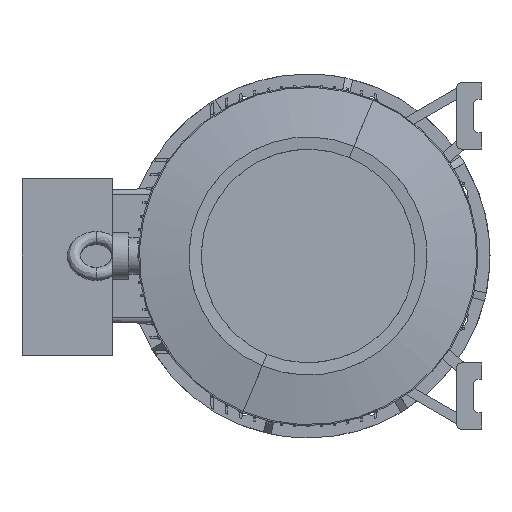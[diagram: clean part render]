
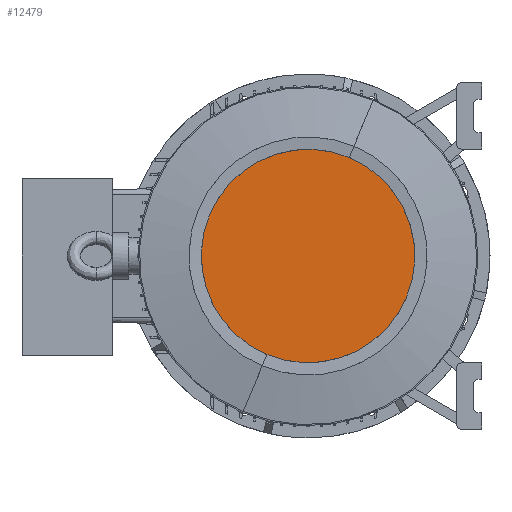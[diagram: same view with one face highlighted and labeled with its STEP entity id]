
A CAD part, left-side view. The second image highlights one B-rep face of the part: STEP entity #12479.
In plain terms, the highlighted planar face has unit normal (-1, 0, 0) as drawn and (1, 0, 0) by its records, which use the part's own axes.
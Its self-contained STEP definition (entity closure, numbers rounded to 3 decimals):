
#6776 = CARTESIAN_POINT ( 'NONE',  ( 338., 0., -193.623 ) ) ;
#6778 = CARTESIAN_POINT ( 'NONE',  ( 338., 0., 193.623 ) ) ;
#9802 = VERTEX_POINT ( 'NONE', #6776 ) ;
#9806 = VERTEX_POINT ( 'NONE', #6778 ) ;
#12479 = ADVANCED_FACE ( 'NONE', ( #24213 ), #16274, .F. ) ;
#13290 = AXIS2_PLACEMENT_3D ( 'NONE', #16286, #16276, #16311 ) ;
#16132 = EDGE_LOOP ( 'NONE', ( #27167, #27271 ) ) ;
#16274 = PLANE ( 'NONE',  #13290 ) ;
#16276 = DIRECTION ( 'NONE',  ( -1., 0., 0. ) ) ;
#16286 = CARTESIAN_POINT ( 'NONE',  ( 338., 193.623, 0. ) ) ;
#16311 = DIRECTION ( 'NONE',  ( 0., 0., 1. ) ) ;
#17565 = CIRCLE ( 'NONE', #31920, 193.623 ) ;
#17641 = CIRCLE ( 'NONE', #31873, 193.623 ) ;
#20000 = EDGE_CURVE ( 'NONE', #9802, #9806, #17641, .T. ) ;
#20014 = EDGE_CURVE ( 'NONE', #9806, #9802, #17565, .T. ) ;
#24213 = FACE_OUTER_BOUND ( 'NONE', #16132, .T. ) ;
#27167 = ORIENTED_EDGE ( 'NONE', *, *, #20000, .T. ) ;
#27271 = ORIENTED_EDGE ( 'NONE', *, *, #20014, .T. ) ;
#30268 = CARTESIAN_POINT ( 'NONE',  ( 338., 0., 0. ) ) ;
#30269 = DIRECTION ( 'NONE',  ( 1., 0., 0. ) ) ;
#30288 = DIRECTION ( 'NONE',  ( 0., 0., -1. ) ) ;
#30304 = DIRECTION ( 'NONE',  ( 1., 0., 0. ) ) ;
#30313 = DIRECTION ( 'NONE',  ( 0., 0., -1. ) ) ;
#30328 = CARTESIAN_POINT ( 'NONE',  ( 338., 0., 0. ) ) ;
#31873 = AXIS2_PLACEMENT_3D ( 'NONE', #30268, #30269, #30288 ) ;
#31920 = AXIS2_PLACEMENT_3D ( 'NONE', #30328, #30304, #30313 ) ;
